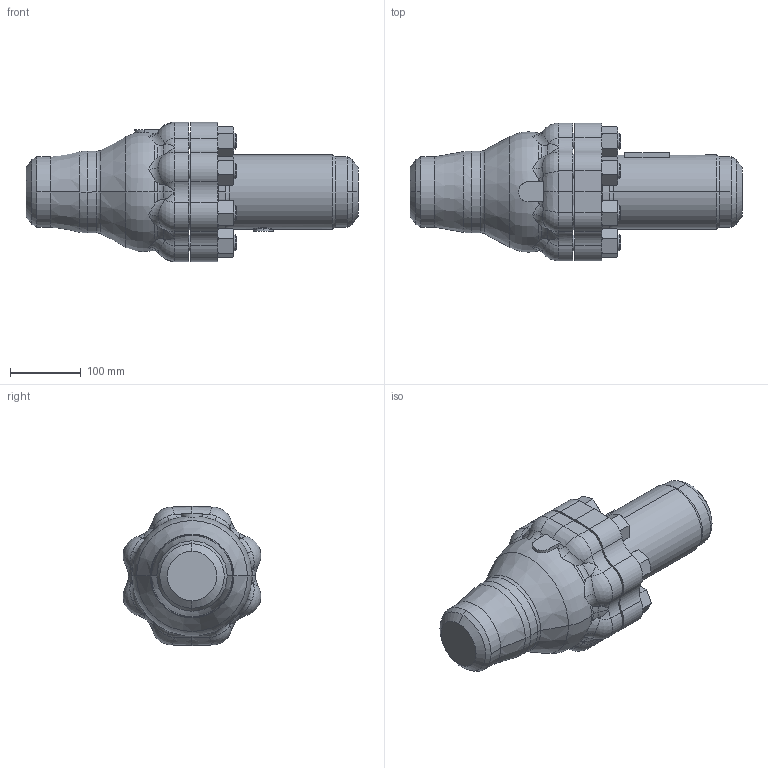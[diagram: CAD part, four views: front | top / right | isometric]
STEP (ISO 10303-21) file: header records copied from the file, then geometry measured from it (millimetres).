
FILE_DESCRIPTION (( 'STEP AP203' ), '1' );
FILE_NAME ('EXC 3-1500 BW.step', '2016-04-26T20:34:44', ( '' ), ( '' ), 'SwSTEP 2.0', 'SolidWorks 2015', '' );
FILE_SCHEMA (( 'CONFIG_CONTROL_DESIGN' ));
Length unit declared in the file: inch
Products named in the file (1): EXC 3-1500 BW
Bounding box: 469.14 x 194.86 x 196.91 mm (x, y, z)
Volume: 6781112.1 mm3; surface area: 294454.4 mm2
Topology: 1 solids, 1 shells, 399 faces, 942 edges, 563 vertices
Faces by surface type: cone 150, plane 90, cylinder 75, torus 72, sphere 10, bspline 2
Entity records: 13245 total; most frequent: CARTESIAN_POINT 4319, ORIENTED_EDGE 1876, DIRECTION 1837, EDGE_CURVE 938, AXIS2_PLACEMENT_3D 810, VERTEX_POINT 561, EDGE_LOOP 435, CIRCLE 412
